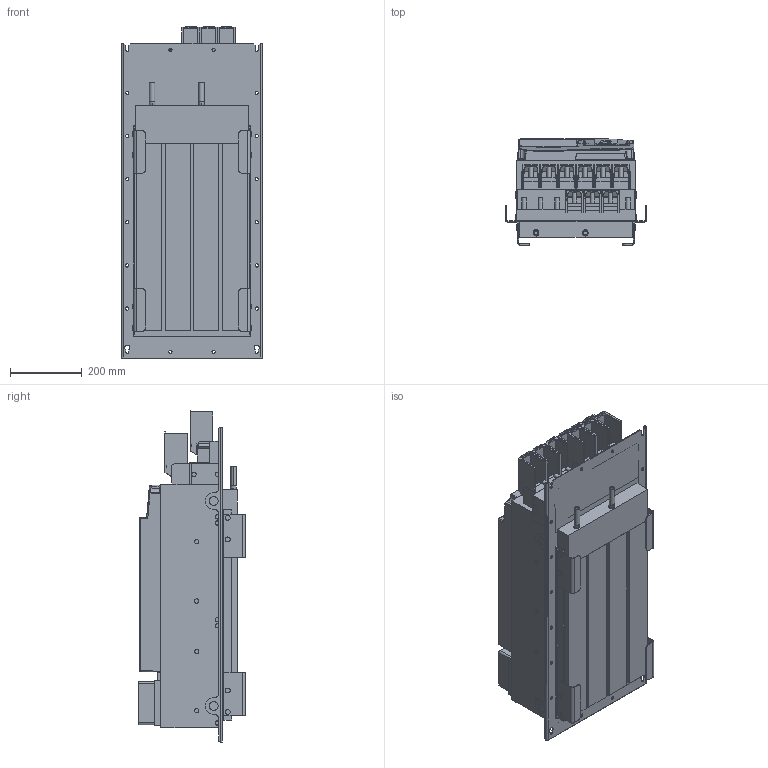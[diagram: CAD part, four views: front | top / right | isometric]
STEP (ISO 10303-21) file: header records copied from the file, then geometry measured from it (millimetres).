
FILE_DESCRIPTION (( 'STEP AP214' ), '1' );
FILE_NAME ('F6-8TW5-P151.STEP', '2021-03-10T15:34:02', ( '' ), ( '' ), 'SwSTEP 2.0', 'SolidWorks 2019', '' );
FILE_SCHEMA (( 'AUTOMOTIVE_DESIGN' ));
Length unit declared in the file: millimetre
Products named in the file (13): 10059765_000; 10063996_000; 10063180_000; F6-8TW5-P151; 10038044_000_Kundemodell; 10059762_000_Kundenmodell mit Geberbuchsen; 10063936_000_F6-8 Leistungsteil TW5 (Kundenmodell + BW); 10047771_000_Kundenmodell; 10059764_000_Blindabdeckung (Kundenmodell); 10040552_000_Kundenmodell; 10063199_000; 10051076_000_Kundenmodell; 10063225_000
Assembly tree (12 placements, depth 4):
  F6-8TW5-P151
    10063936_000_F6-8 Leistungsteil TW5 (Kundenmodell + BW)
      10038044_000_Kundemodell
        10063180_000
      10063996_000
    10040552_000_Kundenmodell
      10047771_000_Kundenmodell
        10063225_000
      10063199_000
    10051076_000_Kundenmodell
      10059764_000_Blindabdeckung (Kundenmodell)
        10059765_000
      10059762_000_Kundenmodell mit Geberbuchsen
Bounding box: 392 x 296.9 x 923.32 mm (x, y, z)
Volume: 64689638.1 mm3; surface area: 2949076.1 mm2
Topology: 6 solids, 30 shells, 2835 faces, 7254 edges, 4501 vertices
Faces by surface type: plane 1474, cylinder 833, bspline 223, sphere 154, cone 98, torus 53
Entity records: 91442 total; most frequent: CARTESIAN_POINT 24292, ORIENTED_EDGE 14286, DIRECTION 13314, EDGE_CURVE 7143, LINE 4564, VECTOR 4564, VERTEX_POINT 4498, AXIS2_PLACEMENT_3D 4375
